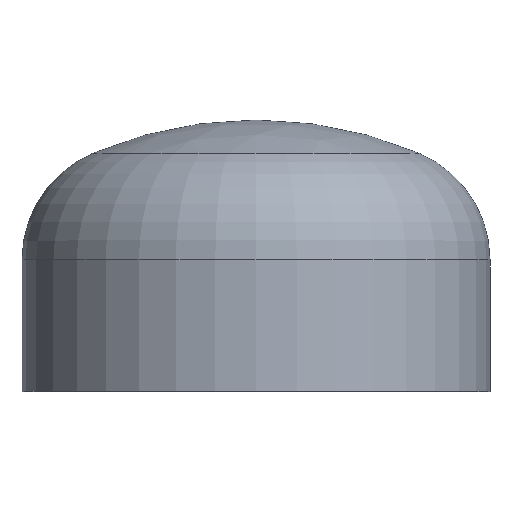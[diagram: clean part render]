
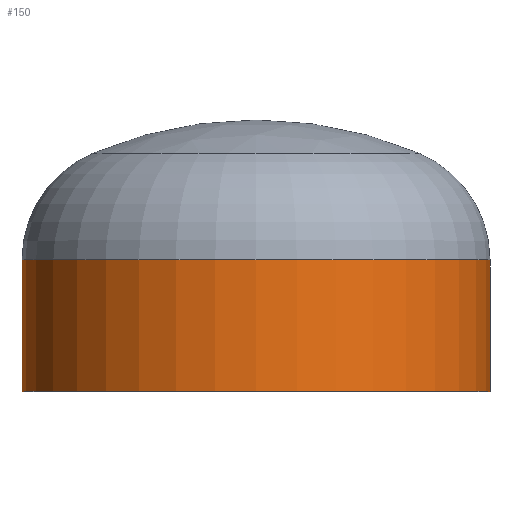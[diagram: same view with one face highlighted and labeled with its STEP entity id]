
A CAD part, top view. The second image highlights one B-rep face of the part: STEP entity #150.
In plain terms, the highlighted cylindrical face has radius 177.8 mm (diameter 355.6 mm), a partial arc.
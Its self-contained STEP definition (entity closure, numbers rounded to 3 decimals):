
#34 = AXIS2_PLACEMENT_3D ( 'NONE', #48, #206, #39 ) ;
#35 = VERTEX_POINT ( 'NONE', #253 ) ;
#37 = AXIS2_PLACEMENT_3D ( 'NONE', #114, #121, #122 ) ;
#39 = DIRECTION ( 'NONE',  ( 1., 0., 0. ) ) ;
#48 = CARTESIAN_POINT ( 'NONE',  ( 0., 0., 0. ) ) ;
#69 = AXIS2_PLACEMENT_3D ( 'NONE', #340, #335, #333 ) ;
#71 = EDGE_CURVE ( 'NONE', #96, #131, #171, .T. ) ;
#79 = EDGE_CURVE ( 'NONE', #103, #131, #406, .T. ) ;
#90 = EDGE_LOOP ( 'NONE', ( #111, #110, #139, #145 ) ) ;
#96 = VERTEX_POINT ( 'NONE', #360 ) ;
#103 = VERTEX_POINT ( 'NONE', #308 ) ;
#106 = CYLINDRICAL_SURFACE ( 'NONE', #34, 177.8 ) ;
#110 = ORIENTED_EDGE ( 'NONE', *, *, #79, .T. ) ;
#111 = ORIENTED_EDGE ( 'NONE', *, *, #330, .T. ) ;
#114 = CARTESIAN_POINT ( 'NONE',  ( 0., 100., 0. ) ) ;
#121 = DIRECTION ( 'NONE',  ( 0., -1., 0. ) ) ;
#122 = DIRECTION ( 'NONE',  ( 1., 0., 0. ) ) ;
#131 = VERTEX_POINT ( 'NONE', #234 ) ;
#139 = ORIENTED_EDGE ( 'NONE', *, *, #71, .F. ) ;
#145 = ORIENTED_EDGE ( 'NONE', *, *, #404, .F. ) ;
#150 = ADVANCED_FACE ( 'NONE', ( #397 ), #106, .T. ) ;
#171 = CIRCLE ( 'NONE', #69, 177.8 ) ;
#206 = DIRECTION ( 'NONE',  ( 0., -1., 0. ) ) ;
#219 = LINE ( 'NONE', #278, #291 ) ;
#234 = CARTESIAN_POINT ( 'NONE',  ( -177.8, 0., 0. ) ) ;
#247 = CARTESIAN_POINT ( 'NONE',  ( -177.8, 0., 0. ) ) ;
#253 = CARTESIAN_POINT ( 'NONE',  ( 177.8, 100., 0. ) ) ;
#278 = CARTESIAN_POINT ( 'NONE',  ( 177.8, 0., 0. ) ) ;
#288 = VECTOR ( 'NONE', #332, 1000. ) ;
#291 = VECTOR ( 'NONE', #347, 1000. ) ;
#308 = CARTESIAN_POINT ( 'NONE',  ( -177.8, 100., 0. ) ) ;
#309 = CIRCLE ( 'NONE', #37, 177.8 ) ;
#330 = EDGE_CURVE ( 'NONE', #35, #103, #309, .T. ) ;
#332 = DIRECTION ( 'NONE',  ( 0., -1., 0. ) ) ;
#333 = DIRECTION ( 'NONE',  ( 1., 0., 0. ) ) ;
#335 = DIRECTION ( 'NONE',  ( 0., -1., 0. ) ) ;
#340 = CARTESIAN_POINT ( 'NONE',  ( 0., 0., 0. ) ) ;
#347 = DIRECTION ( 'NONE',  ( 0., -1., 0. ) ) ;
#360 = CARTESIAN_POINT ( 'NONE',  ( 177.8, 0., 0. ) ) ;
#397 = FACE_OUTER_BOUND ( 'NONE', #90, .T. ) ;
#404 = EDGE_CURVE ( 'NONE', #35, #96, #219, .T. ) ;
#406 = LINE ( 'NONE', #247, #288 ) ;
